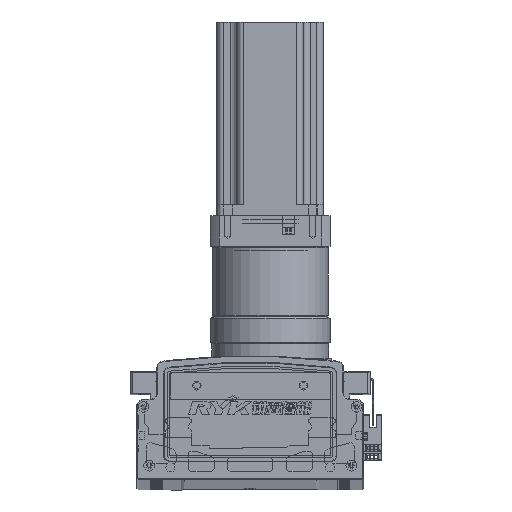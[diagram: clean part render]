
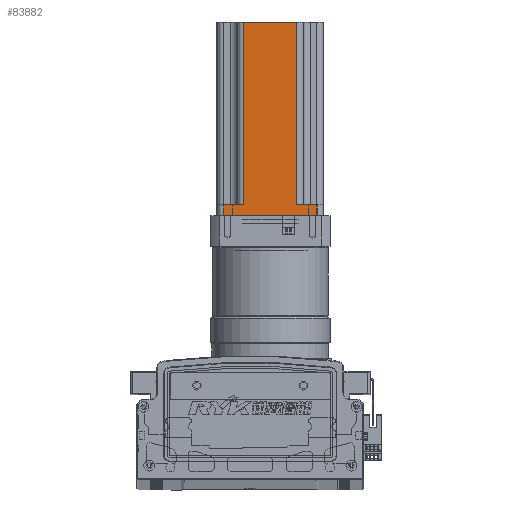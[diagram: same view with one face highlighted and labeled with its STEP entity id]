
A CAD part, top view. The second image highlights one B-rep face of the part: STEP entity #83882.
In plain terms, the highlighted planar face has unit normal (0, 0, 1) as drawn and (0, -1, 0) by its records, which use the part's own axes.
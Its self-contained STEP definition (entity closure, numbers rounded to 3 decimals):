
#38827 = EDGE_CURVE ( 'NONE', #59797, #59813, #123383, .T. ) ;
#38972 = EDGE_CURVE ( 'NONE', #59715, #59700, #123493, .T. ) ;
#38997 = EDGE_CURVE ( 'NONE', #59813, #59668, #123560, .T. ) ;
#39019 = EDGE_CURVE ( 'NONE', #59683, #59668, #123583, .T. ) ;
#39055 = EDGE_CURVE ( 'NONE', #59686, #59797, #123538, .T. ) ;
#39126 = EDGE_CURVE ( 'NONE', #59683, #59787, #123648, .T. ) ;
#39156 = EDGE_CURVE ( 'NONE', #59686, #59700, #123663, .T. ) ;
#39215 = EDGE_CURVE ( 'NONE', #59715, #59787, #123729, .T. ) ;
#40430 = FACE_OUTER_BOUND ( 'NONE', #67385, .T. ) ;
#43120 = AXIS2_PLACEMENT_3D ( 'NONE', #43982, #44040, #43873 ) ;
#43869 = PLANE ( 'NONE',  #43120 ) ;
#43873 = DIRECTION ( 'NONE',  ( -1., 0., 0. ) ) ;
#43982 = CARTESIAN_POINT ( 'NONE',  ( -87.587, -40.37, 145. ) ) ;
#44040 = DIRECTION ( 'NONE',  ( 0., 1., 0. ) ) ;
#59668 = VERTEX_POINT ( 'NONE', #69493 ) ;
#59683 = VERTEX_POINT ( 'NONE', #69347 ) ;
#59686 = VERTEX_POINT ( 'NONE', #69353 ) ;
#59700 = VERTEX_POINT ( 'NONE', #69471 ) ;
#59715 = VERTEX_POINT ( 'NONE', #69397 ) ;
#59787 = VERTEX_POINT ( 'NONE', #69369 ) ;
#59797 = VERTEX_POINT ( 'NONE', #69377 ) ;
#59813 = VERTEX_POINT ( 'NONE', #69420 ) ;
#67385 = EDGE_LOOP ( 'NONE', ( #68698, #68798, #68729, #68694, #68793, #68850, #69063, #68800 ) ) ;
#68694 = ORIENTED_EDGE ( 'NONE', *, *, #38997, .T. ) ;
#68698 = ORIENTED_EDGE ( 'NONE', *, *, #39156, .F. ) ;
#68729 = ORIENTED_EDGE ( 'NONE', *, *, #38827, .T. ) ;
#68793 = ORIENTED_EDGE ( 'NONE', *, *, #39019, .F. ) ;
#68798 = ORIENTED_EDGE ( 'NONE', *, *, #39055, .T. ) ;
#68800 = ORIENTED_EDGE ( 'NONE', *, *, #38972, .T. ) ;
#68850 = ORIENTED_EDGE ( 'NONE', *, *, #39126, .T. ) ;
#69063 = ORIENTED_EDGE ( 'NONE', *, *, #39215, .F. ) ;
#69347 = CARTESIAN_POINT ( 'NONE',  ( -27.587, -40.37, 8. ) ) ;
#69353 = CARTESIAN_POINT ( 'NONE',  ( -82.587, -40.37, 8. ) ) ;
#69369 = CARTESIAN_POINT ( 'NONE',  ( -27.587, -40.37, 145. ) ) ;
#69377 = CARTESIAN_POINT ( 'NONE',  ( -82.587, -40.37, 0. ) ) ;
#69397 = CARTESIAN_POINT ( 'NONE',  ( -67.587, -40.37, 145. ) ) ;
#69420 = CARTESIAN_POINT ( 'NONE',  ( -12.587, -40.37, 0. ) ) ;
#69471 = CARTESIAN_POINT ( 'NONE',  ( -67.587, -40.37, 8. ) ) ;
#69493 = CARTESIAN_POINT ( 'NONE',  ( -12.587, -40.37, 8. ) ) ;
#83882 = ADVANCED_FACE ( 'NONE', ( #40430 ), #43869, .F. ) ;
#112746 = CARTESIAN_POINT ( 'NONE',  ( -67.587, -40.37, 145. ) ) ;
#112775 = DIRECTION ( 'NONE',  ( 0., 0., -1. ) ) ;
#112894 = CARTESIAN_POINT ( 'NONE',  ( -12.587, -40.37, 145. ) ) ;
#112900 = CARTESIAN_POINT ( 'NONE',  ( -7.587, -40.37, 8. ) ) ;
#112908 = DIRECTION ( 'NONE',  ( 1., 0., 0. ) ) ;
#112925 = DIRECTION ( 'NONE',  ( 0., 0., 1. ) ) ;
#113155 = DIRECTION ( 'NONE',  ( 0., 0., -1. ) ) ;
#113163 = CARTESIAN_POINT ( 'NONE',  ( -82.587, -40.37, 145. ) ) ;
#113318 = CARTESIAN_POINT ( 'NONE',  ( -27.587, -40.37, 145. ) ) ;
#113327 = DIRECTION ( 'NONE',  ( 0., 0., 1. ) ) ;
#113339 = CARTESIAN_POINT ( 'NONE',  ( -87.587, -40.37, 8. ) ) ;
#113386 = DIRECTION ( 'NONE',  ( 1., 0., 0. ) ) ;
#113680 = DIRECTION ( 'NONE',  ( 1., 0., 0. ) ) ;
#113688 = CARTESIAN_POINT ( 'NONE',  ( -87.587, -40.37, 145. ) ) ;
#119109 = DIRECTION ( 'NONE',  ( 1., 0., 0. ) ) ;
#119134 = CARTESIAN_POINT ( 'NONE',  ( -87.587, -40.37, 0. ) ) ;
#123383 = LINE ( 'NONE', #119134, #123405 ) ;
#123405 = VECTOR ( 'NONE', #119109, 1000. ) ;
#123470 = VECTOR ( 'NONE', #112775, 1000. ) ;
#123493 = LINE ( 'NONE', #112746, #123470 ) ;
#123538 = LINE ( 'NONE', #113163, #123539 ) ;
#123539 = VECTOR ( 'NONE', #113155, 1000. ) ;
#123548 = VECTOR ( 'NONE', #112908, 1000. ) ;
#123560 = LINE ( 'NONE', #112894, #123568 ) ;
#123568 = VECTOR ( 'NONE', #112925, 1000. ) ;
#123583 = LINE ( 'NONE', #112900, #123548 ) ;
#123611 = VECTOR ( 'NONE', #113327, 1000. ) ;
#123648 = LINE ( 'NONE', #113318, #123611 ) ;
#123663 = LINE ( 'NONE', #113339, #123680 ) ;
#123680 = VECTOR ( 'NONE', #113386, 1000. ) ;
#123729 = LINE ( 'NONE', #113688, #123731 ) ;
#123731 = VECTOR ( 'NONE', #113680, 1000. ) ;
